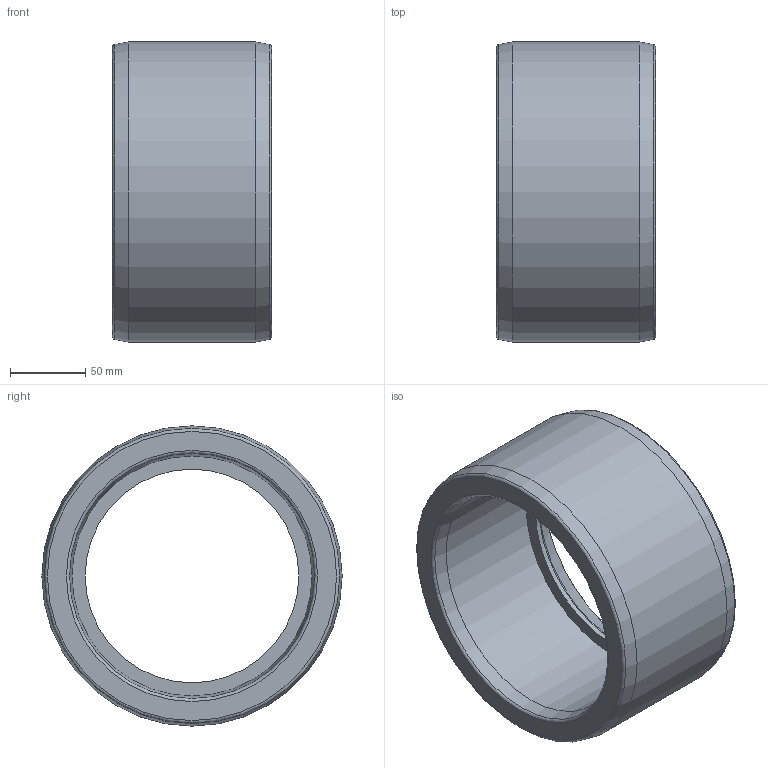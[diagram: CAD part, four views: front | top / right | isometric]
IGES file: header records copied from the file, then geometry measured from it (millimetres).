
Global section: file name: 050900200160.ipt; native system: Autodesk Inventor 2015; preprocessor: unknown; author: KIM; date: 20171207.165201; units: millimetre
Bounding box: 106 x 200 x 200 mm (x, y, z)
Volume: 1219322.1 mm3; surface area: 142261.3 mm2
Topology: 1 solids, 1 shells, 15 faces, 43 edges, 31 vertices
Faces by surface type: revolution 9, plane 3, cone 2, cylinder 1
Full cylindrical faces by diameter (mm): 200 x1
